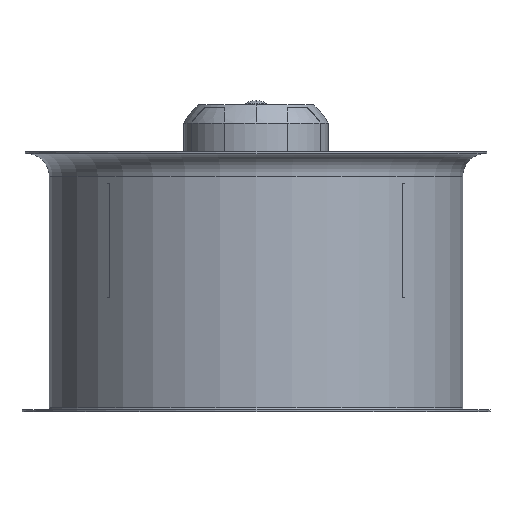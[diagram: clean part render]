
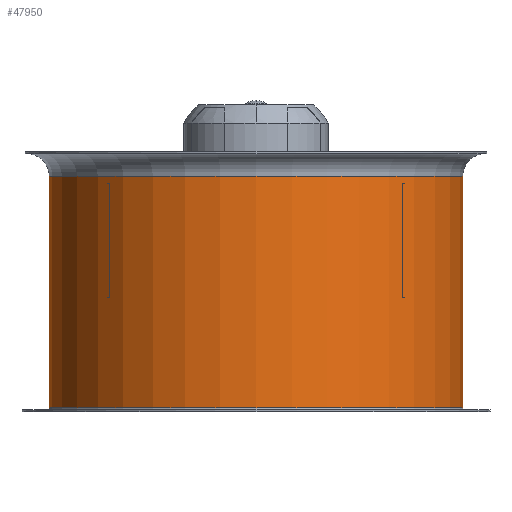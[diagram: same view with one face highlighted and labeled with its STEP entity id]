
A CAD part, front view. The second image highlights one B-rep face of the part: STEP entity #47950.
In plain terms, the highlighted cylindrical face has radius 318 mm (diameter 636 mm), a partial arc.
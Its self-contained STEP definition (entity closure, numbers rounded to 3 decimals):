
#909 = ORIENTED_EDGE ( 'NONE', *, *, #32150, .T. ) ;
#1831 = CARTESIAN_POINT ( 'NONE',  ( 0., 0., -269. ) ) ;
#4011 = CARTESIAN_POINT ( 'NONE',  ( 318., 0., 32.456 ) ) ;
#4692 = DIRECTION ( 'NONE',  ( 0., 0., 1. ) ) ;
#4960 = VERTEX_POINT ( 'NONE', #56430 ) ;
#8728 = LINE ( 'NONE', #66519, #29084 ) ;
#10961 = AXIS2_PLACEMENT_3D ( 'NONE', #35002, #29570, #50468 ) ;
#11998 = AXIS2_PLACEMENT_3D ( 'NONE', #1831, #53918, #27978 ) ;
#12842 = CARTESIAN_POINT ( 'NONE',  ( 318., 0., 87. ) ) ;
#20014 = CIRCLE ( 'NONE', #49626, 318. ) ;
#20603 = EDGE_LOOP ( 'NONE', ( #44550, #909, #63973, #23385 ) ) ;
#20776 = CARTESIAN_POINT ( 'NONE',  ( -318., 0., 87. ) ) ;
#23385 = ORIENTED_EDGE ( 'NONE', *, *, #36521, .F. ) ;
#23629 = LINE ( 'NONE', #4011, #36671 ) ;
#24384 = DIRECTION ( 'NONE',  ( 0., 0., 1. ) ) ;
#27978 = DIRECTION ( 'NONE',  ( 1., 0., 0. ) ) ;
#29084 = VECTOR ( 'NONE', #4692, 1000. ) ;
#29570 = DIRECTION ( 'NONE',  ( 0., 0., 1. ) ) ;
#29761 = EDGE_CURVE ( 'NONE', #4960, #64666, #23629, .T. ) ;
#29826 = VERTEX_POINT ( 'NONE', #20776 ) ;
#32150 = EDGE_CURVE ( 'NONE', #60802, #4960, #37302, .T. ) ;
#32186 = DIRECTION ( 'NONE',  ( 1., 0., 0. ) ) ;
#35002 = CARTESIAN_POINT ( 'NONE',  ( 0., 0., 32.456 ) ) ;
#36521 = EDGE_CURVE ( 'NONE', #29826, #64666, #20014, .T. ) ;
#36671 = VECTOR ( 'NONE', #24384, 1000. ) ;
#37302 = CIRCLE ( 'NONE', #11998, 318. ) ;
#42442 = CARTESIAN_POINT ( 'NONE',  ( 0., 0., 87. ) ) ;
#44131 = CARTESIAN_POINT ( 'NONE',  ( -318., 0., -269. ) ) ;
#44550 = ORIENTED_EDGE ( 'NONE', *, *, #57269, .F. ) ;
#47201 = CYLINDRICAL_SURFACE ( 'NONE', #10961, 318. ) ;
#47950 = ADVANCED_FACE ( 'NONE', ( #63409 ), #47201, .T. ) ;
#49626 = AXIS2_PLACEMENT_3D ( 'NONE', #42442, #63308, #32186 ) ;
#50468 = DIRECTION ( 'NONE',  ( 1., 0., 0. ) ) ;
#53918 = DIRECTION ( 'NONE',  ( 0., 0., 1. ) ) ;
#56430 = CARTESIAN_POINT ( 'NONE',  ( 318., 0., -269. ) ) ;
#57269 = EDGE_CURVE ( 'NONE', #60802, #29826, #8728, .T. ) ;
#60802 = VERTEX_POINT ( 'NONE', #44131 ) ;
#63308 = DIRECTION ( 'NONE',  ( 0., 0., 1. ) ) ;
#63409 = FACE_OUTER_BOUND ( 'NONE', #20603, .T. ) ;
#63973 = ORIENTED_EDGE ( 'NONE', *, *, #29761, .T. ) ;
#64666 = VERTEX_POINT ( 'NONE', #12842 ) ;
#66519 = CARTESIAN_POINT ( 'NONE',  ( -318., 0., 32.456 ) ) ;
